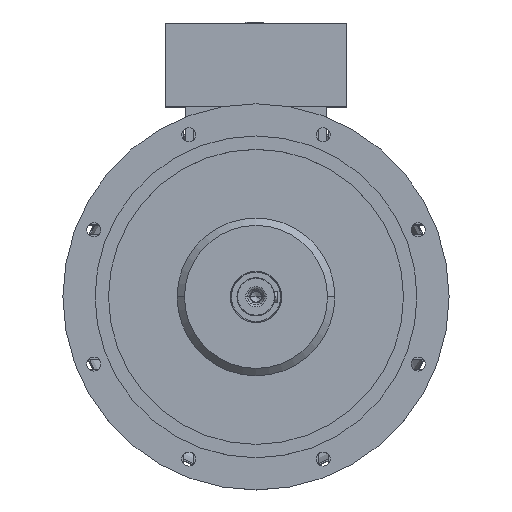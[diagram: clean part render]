
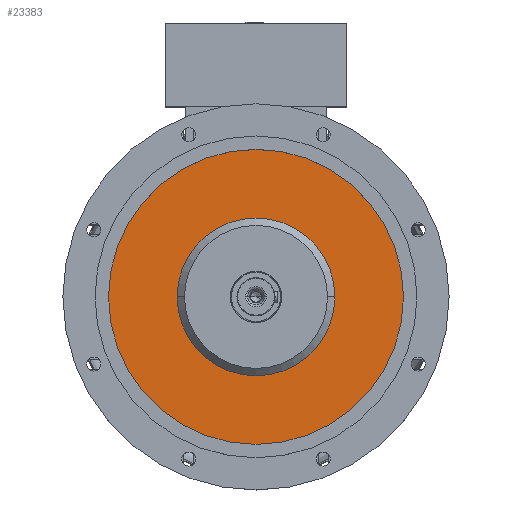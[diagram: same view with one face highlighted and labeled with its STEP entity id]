
A CAD part, top view. The second image highlights one B-rep face of the part: STEP entity #23383.
In plain terms, the highlighted planar face has unit normal (0, 0, 1).
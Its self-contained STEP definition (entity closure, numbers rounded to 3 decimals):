
#27 = CIRCLE ( 'NONE', #496, 252.083 ) ;
#54 = CIRCLE ( 'NONE', #13011, 134.8 ) ;
#496 = AXIS2_PLACEMENT_3D ( 'NONE', #9952, #13864, #7872 ) ;
#843 = EDGE_CURVE ( 'NONE', #5903, #15641, #54, .T. ) ;
#1133 = AXIS2_PLACEMENT_3D ( 'NONE', #7645, #11520, #23120 ) ;
#1949 = CARTESIAN_POINT ( 'NONE',  ( 252.083, 0., 455.4 ) ) ;
#2407 = EDGE_CURVE ( 'NONE', #15641, #5903, #17156, .T. ) ;
#2773 = ORIENTED_EDGE ( 'NONE', *, *, #843, .T. ) ;
#3103 = VERTEX_POINT ( 'NONE', #1949 ) ;
#3371 = CARTESIAN_POINT ( 'NONE',  ( -134.8, 0., 455.4 ) ) ;
#5119 = FACE_BOUND ( 'NONE', #19086, .T. ) ;
#5903 = VERTEX_POINT ( 'NONE', #3371 ) ;
#7587 = EDGE_CURVE ( 'NONE', #3103, #20647, #23847, .T. ) ;
#7645 = CARTESIAN_POINT ( 'NONE',  ( 0., 0., 455.4 ) ) ;
#7872 = DIRECTION ( 'NONE',  ( -1., 0., 0. ) ) ;
#8258 = EDGE_CURVE ( 'NONE', #20647, #3103, #27, .T. ) ;
#9952 = CARTESIAN_POINT ( 'NONE',  ( 0., 0., 455.4 ) ) ;
#10188 = FACE_OUTER_BOUND ( 'NONE', #19963, .T. ) ;
#10597 = DIRECTION ( 'NONE',  ( -1., 0., 0. ) ) ;
#11030 = PLANE ( 'NONE',  #11145 ) ;
#11145 = AXIS2_PLACEMENT_3D ( 'NONE', #22573, #19196, #15382 ) ;
#11169 = DIRECTION ( 'NONE',  ( 0., 0., -1. ) ) ;
#11520 = DIRECTION ( 'NONE',  ( 0., 0., 1. ) ) ;
#11747 = AXIS2_PLACEMENT_3D ( 'NONE', #18910, #11169, #22452 ) ;
#11793 = CARTESIAN_POINT ( 'NONE',  ( 134.8, 0., 455.4 ) ) ;
#13011 = AXIS2_PLACEMENT_3D ( 'NONE', #18518, #14694, #10597 ) ;
#13864 = DIRECTION ( 'NONE',  ( 0., 0., 1. ) ) ;
#14694 = DIRECTION ( 'NONE',  ( 0., 0., -1. ) ) ;
#15382 = DIRECTION ( 'NONE',  ( 1., 0., 0. ) ) ;
#15641 = VERTEX_POINT ( 'NONE', #11793 ) ;
#16746 = CARTESIAN_POINT ( 'NONE',  ( -252.083, 0., 455.4 ) ) ;
#17156 = CIRCLE ( 'NONE', #11747, 134.8 ) ;
#17761 = ORIENTED_EDGE ( 'NONE', *, *, #2407, .T. ) ;
#18518 = CARTESIAN_POINT ( 'NONE',  ( 0., 0., 455.4 ) ) ;
#18910 = CARTESIAN_POINT ( 'NONE',  ( 0., 0., 455.4 ) ) ;
#19086 = EDGE_LOOP ( 'NONE', ( #2773, #17761 ) ) ;
#19196 = DIRECTION ( 'NONE',  ( 0., 0., 1. ) ) ;
#19963 = EDGE_LOOP ( 'NONE', ( #21357, #22730 ) ) ;
#20647 = VERTEX_POINT ( 'NONE', #16746 ) ;
#21357 = ORIENTED_EDGE ( 'NONE', *, *, #8258, .T. ) ;
#22452 = DIRECTION ( 'NONE',  ( -1., 0., 0. ) ) ;
#22573 = CARTESIAN_POINT ( 'NONE',  ( 0., 252.083, 455.4 ) ) ;
#22730 = ORIENTED_EDGE ( 'NONE', *, *, #7587, .T. ) ;
#23120 = DIRECTION ( 'NONE',  ( -1., 0., 0. ) ) ;
#23383 = ADVANCED_FACE ( 'NONE', ( #10188, #5119 ), #11030, .T. ) ;
#23847 = CIRCLE ( 'NONE', #1133, 252.083 ) ;
